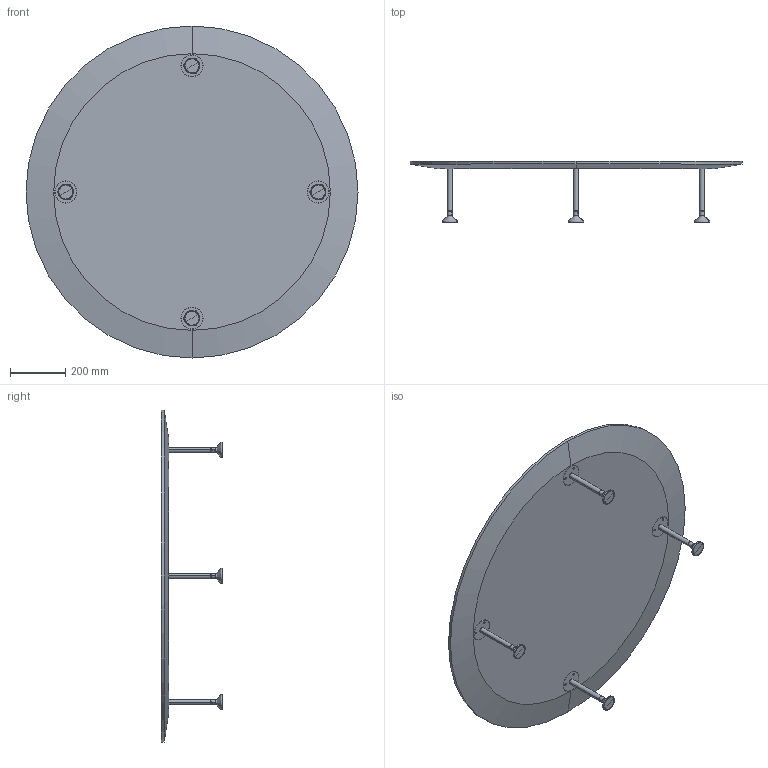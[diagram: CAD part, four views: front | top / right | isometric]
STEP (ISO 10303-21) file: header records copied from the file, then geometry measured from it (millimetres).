
FILE_DESCRIPTION (( 'STEP AP214' ), '1' );
FILE_NAME ('RoundØ1200leg220.STEP', '2017-05-28T19:02:41', ( '' ), ( '' ), 'SwSTEP 2.0', 'SolidWorks 2016', '' );
FILE_SCHEMA (( 'AUTOMOTIVE_DESIGN' ));
Length unit declared in the file: millimetre
Products named in the file (3): RoundØ1200leg220; ben220; Round ﾘ1200
Assembly tree (5 placements, depth 2):
  RoundØ1200leg220
    Round ﾘ1200
    ben220  x4
Bounding box: 1200 x 221 x 1200 mm (x, y, z)
Volume: 26742028 mm3; surface area: 2459775.3 mm2
Topology: 13 solids, 13 shells, 126 faces, 290 edges, 186 vertices
Faces by surface type: cylinder 66, bspline 32, plane 26, cone 2
Entity records: 2456 total; most frequent: CARTESIAN_POINT 1340, DIRECTION 216, ORIENTED_EDGE 192, EDGE_CURVE 96, AXIS2_PLACEMENT_3D 95, VERTEX_POINT 63, EDGE_LOOP 59, CIRCLE 50
